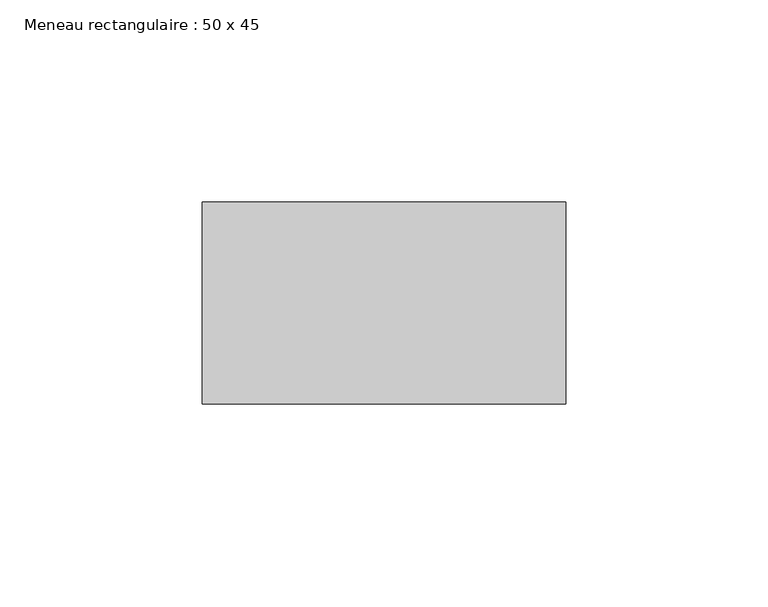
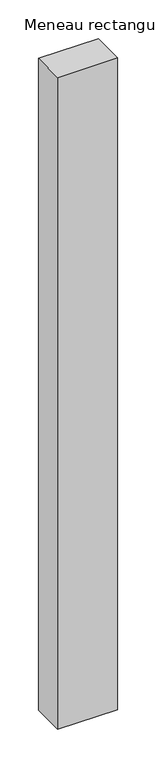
"""IFC4 building model written with IfcOpenShell, lengths in millimetres: member geometry, Meneau rectangulaire : 50 x 45."""

import ifcopenshell
import ifcopenshell.guid

model = None  # the IFC model being written
_history = None  # IfcOwnerHistory: only IFC2X3 demands one
_inside = {}  # id of a spatial element -> (the spatial element, [elements in it])
_under = {}  # id of a project, library or spatial element -> (it, [spatial elements below it])
_declared = {}  # id of a project -> (the project, [libraries it declares])
_typed = {}  # id of a type object -> (the type object, [elements of that type])
_made_of = {}  # id of a material, layer set ... -> (it, [elements and type objects made of it])


def new_model(schema):
    """Start an empty IFC model of exactly this schema.

    Asked for "IFC4X3", IfcOpenShell would pick the latest addendum, in which some entities
    have other attributes; the version numbers below select the first issue.
    IFC2X3 requires an IfcOwnerHistory on every rooted entity: one is made here for all.
    """
    global model, _history
    if schema == "IFC4X3":
        model = ifcopenshell.file(schema_version=(4, 3, 0, 0))
    else:
        model = ifcopenshell.file(schema=schema)
    _inside.clear()
    _under.clear()
    _declared.clear()
    _typed.clear()
    _made_of.clear()
    _history = None
    if model.schema == "IFC2X3":
        org = make("IfcOrganization", Name="unknown")
        user = make(
            "IfcPersonAndOrganization",
            ThePerson=make("IfcPerson", FamilyName="unknown"),
            TheOrganization=org,
        )
        app = make(
            "IfcApplication",
            ApplicationDeveloper=org,
            Version="unknown",
            ApplicationFullName="unknown",
            ApplicationIdentifier="unknown",
        )
        _history = make(
            "IfcOwnerHistory",
            OwningUser=user,
            OwningApplication=app,
            ChangeAction="ADDED",
            CreationDate=0,
        )
    return model


def make(cls, **values):
    """One entity of the class cls with the attributes given. An attribute that is None is left unset."""
    return model.create_entity(
        cls, **{name: value for name, value in values.items() if value is not None}
    )


def rooted(cls, **values):
    """An entity with a GlobalId (a new one), such as an element, a storey or a relation."""
    return make(cls, GlobalId=ifcopenshell.guid.new(), OwnerHistory=_history, **values)


def si_unit(unit_type, name, prefix=None):
    """IfcSIUnit, for example si_unit("LENGTHUNIT", "METRE", prefix="MILLI")."""
    return make("IfcSIUnit", UnitType=unit_type, Prefix=prefix, Name=name)


def assignment(units):
    """IfcUnitAssignment: the units of a project."""
    return None if units is None else make("IfcUnitAssignment", Units=units)


def point(xyz):
    """IfcCartesianPoint."""
    return None if xyz is None else make("IfcCartesianPoint", Coordinates=xyz)


def direction(xyz):
    """IfcDirection."""
    return None if xyz is None else make("IfcDirection", DirectionRatios=xyz)


def frame(location, z_axis=None, x_axis=None):
    """IfcAxis2Placement3D, a coordinate frame: its origin and axes. An axis left out is left unset."""
    return make(
        "IfcAxis2Placement3D",
        Location=point(location),
        Axis=direction(z_axis),
        RefDirection=direction(x_axis),
    )


def origin():
    """The frame at (0, 0, 0) with its axes left unset."""
    return frame((0.0, 0.0, 0.0))


def place(relative_to, where):
    """IfcLocalPlacement: puts the frame where relative to a parent placement (None: the world)."""
    return make(
        "IfcLocalPlacement", PlacementRelTo=relative_to, RelativePlacement=where
    )


def context(
    kind, dimensions, precision=None, world=None, true_north=None, identifier=None
):
    """IfcGeometricRepresentationContext, for example the 3D "Model" context."""
    return make(
        "IfcGeometricRepresentationContext",
        ContextIdentifier=identifier,
        ContextType=kind,
        CoordinateSpaceDimension=dimensions,
        Precision=precision,
        WorldCoordinateSystem=world,
        TrueNorth=true_north,
    )


def project(units=None, contexts=None):
    """IfcProject with its units and contexts."""
    return rooted(
        "IfcProject",
        Name="project",
        RepresentationContexts=contexts,
        UnitsInContext=assignment(units),
    )


def spatial(cls, under=None, at=None, **own):
    """A site, building, storey or space (cls), placed at a placement, below another one or the project."""
    s = rooted(cls, ObjectPlacement=at, **own)
    if under is not None:
        _under.setdefault(under.id(), (under, []))[1].append(s)
    return s


def polyline(points):
    """IfcPolyline through the points."""
    return make("IfcPolyline", Points=[point(p) for p in points])


def outline(outer, holes=None, kind="AREA"):
    """IfcArbitraryClosedProfileDef: a profile drawn as a closed curve; with holes, ...WithVoids."""
    if holes is None:
        return make("IfcArbitraryClosedProfileDef", ProfileType=kind, OuterCurve=outer)
    return make(
        "IfcArbitraryProfileDefWithVoids",
        ProfileType=kind,
        OuterCurve=outer,
        InnerCurves=holes,
    )


def extrude(swept, where, along, depth):
    """IfcExtrudedAreaSolid: the profile swept, set in the frame where, extruded along a direction by depth."""
    return make(
        "IfcExtrudedAreaSolid",
        SweptArea=swept,
        Position=where,
        ExtrudedDirection=direction(along),
        Depth=depth,
    )


def shape(context_of_items, identifier, shape_type, items):
    """IfcShapeRepresentation: the items that make up one representation, for example the "Body"."""
    return make(
        "IfcShapeRepresentation",
        ContextOfItems=context_of_items,
        RepresentationIdentifier=identifier,
        RepresentationType=shape_type,
        Items=items,
    )


def source(mapping_origin, context_of_items, identifier, shape_type, items):
    """IfcRepresentationMap: a shape defined once, which mapped items show again and again."""
    return make(
        "IfcRepresentationMap",
        MappingOrigin=mapping_origin,
        MappedRepresentation=shape(context_of_items, identifier, shape_type, items),
    )


def transform(
    local_origin,
    x_axis=None,
    y_axis=None,
    z_axis=None,
    scale=None,
    scale2=None,
    scale3=None,
    uniform=True,
):
    """IfcCartesianTransformationOperator3D, or its non-uniform kind. x_axis, y_axis, z_axis: its Axis1, 2, 3."""
    if uniform:
        return make(
            "IfcCartesianTransformationOperator3D",
            Axis1=direction(x_axis),
            Axis2=direction(y_axis),
            LocalOrigin=point(local_origin),
            Scale=scale,
            Axis3=direction(z_axis),
        )
    return make(
        "IfcCartesianTransformationOperator3DnonUniform",
        Axis1=direction(x_axis),
        Axis2=direction(y_axis),
        LocalOrigin=point(local_origin),
        Scale=scale,
        Axis3=direction(z_axis),
        Scale2=scale2,
        Scale3=scale3,
    )


def mapped(mapping_source, mapping_target):
    """IfcMappedItem: shows the shape of a source again, moved by a transform."""
    return make(
        "IfcMappedItem", MappingSource=mapping_source, MappingTarget=mapping_target
    )


def made_of(thing, what):
    """Note that an element or type object is made of a material, layer set ...; save() writes the relation."""
    if what is not None:
        _made_of.setdefault(what.id(), (what, []))[1].append(thing)
    return thing


def element(
    cls,
    number,
    at=None,
    inside=None,
    cuts=None,
    type_object=None,
    material=None,
    context=None,
    identifier="Body",
    shape_type=None,
    held_by="IfcProductDefinitionShape",
    body=None,
    shapes=None,
    **own,
):
    """One element of the class cls, such as IfcWall. Its Tag is "e" and its number.

    at: its placement. inside: the storey or other place that contains it. cuts: it is an
    opening in that element (IfcRelVoidsElement). A single representation is given by context,
    identifier, shape_type and body (its items); several are given by shapes. held_by: the class
    of the entity that holds the representations. save() writes the other relations.
    """
    e = rooted(cls, Tag="e%d" % number, ObjectPlacement=at, **own)
    if body is not None:
        shapes = [shape(context, identifier, shape_type, body)]
    if shapes is not None:
        e.Representation = make(held_by, Representations=shapes)
    if inside is not None:
        _inside.setdefault(inside.id(), (inside, []))[1].append(e)
    if cuts is not None:
        rooted(
            "IfcRelVoidsElement", RelatingBuildingElement=cuts, RelatedOpeningElement=e
        )
    if type_object is not None:
        _typed.setdefault(type_object.id(), (type_object, []))[1].append(e)
    return made_of(e, material)


def aggregate(whole, parts):
    """IfcRelAggregates: a whole, such as a stair, and the parts it consists of."""
    return rooted("IfcRelAggregates", RelatingObject=whole, RelatedObjects=parts)


def save(model, path):
    """Write the relations noted so far, then the file.

    IfcRelAggregates (storeys below a building ...), IfcRelContainedInSpatialStructure (elements
    in a storey), IfcRelDefinesByType, IfcRelAssociatesMaterial and IfcRelDeclares: one each for
    every whole, place, type object, material and project.
    """
    for whole, parts in _under.values():
        aggregate(whole, parts)
    for where, things in _inside.values():
        rooted(
            "IfcRelContainedInSpatialStructure",
            RelatedElements=things,
            RelatingStructure=where,
        )
    for kind, things in _typed.values():
        rooted("IfcRelDefinesByType", RelatedObjects=things, RelatingType=kind)
    for what, things in _made_of.values():
        rooted("IfcRelAssociatesMaterial", RelatedObjects=things, RelatingMaterial=what)
    for by, libraries in _declared.values():
        rooted("IfcRelDeclares", RelatingContext=by, RelatedDefinitions=libraries)
    model.write(path)


def meneau_rectangulaire_50_x_45_ade44b12(model_context):
    return source(origin(), model_context, "Body", "SweptSolid", [
        extrude(outline(polyline([(0.0, 0.0), (0.0, -50.0), (-90.0, -50.0), (-90.0, 0.0), (0.0, 0.0)])), frame((0.0, 0.0, -1033.1760148), z_axis=(0.0, 0.0, 1.0), x_axis=(1.0, 0.0, 0.0)), (0.0, 0.0, 1.0), 1033.1760148),
    ])


if __name__ == "__main__":
    model = new_model("IFC4")
    model_context = context("Model", 3, world=origin())
    ifc_project = project(units=[si_unit("LENGTHUNIT", "METRE", prefix="MILLI")], contexts=[model_context])
    site = spatial("IfcSite", under=ifc_project)
    building = spatial("IfcBuilding", under=site)
    placement = place(None, origin())
    meneau_rectangulaire_50_x_45_shape = meneau_rectangulaire_50_x_45_ade44b12(model_context)
    element("IfcMember", 1, ObjectType="Meneau rectangulaire : 50 x 45", at=placement, inside=building, context=model_context, shape_type="MappedRepresentation", body=[
        mapped(meneau_rectangulaire_50_x_45_shape, transform((0.0, 0.0, 0.0), x_axis=(1.0, 0.0, 0.0), y_axis=(0.0, 1.0, 0.0), z_axis=(0.0, 0.0, 1.0))),
    ])
    save(model, "model.ifc")
